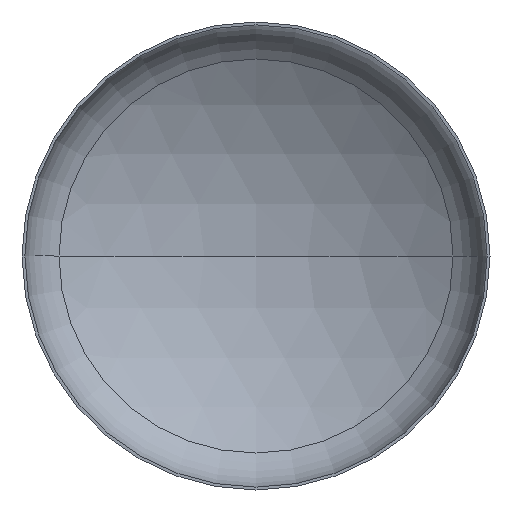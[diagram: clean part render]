
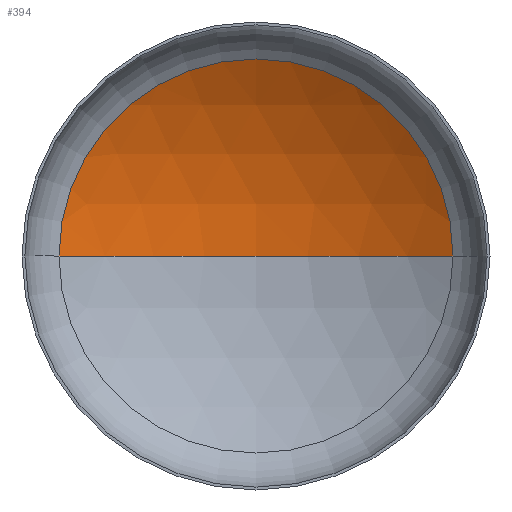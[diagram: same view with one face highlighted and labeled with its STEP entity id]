
A CAD part, front view. The second image highlights one B-rep face of the part: STEP entity #394.
In plain terms, the highlighted spherical face has radius 5200 mm.
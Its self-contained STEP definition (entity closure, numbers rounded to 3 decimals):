
#14 = ORIENTED_EDGE ( 'NONE', *, *, #107, .T. ) ;
#55 = AXIS2_PLACEMENT_3D ( 'NONE', #198, #204, #173 ) ;
#59 = AXIS2_PLACEMENT_3D ( 'NONE', #295, #216, #214 ) ;
#63 = AXIS2_PLACEMENT_3D ( 'NONE', #164, #189, #191 ) ;
#66 = VERTEX_POINT ( 'NONE', #236 ) ;
#71 = EDGE_LOOP ( 'NONE', ( #222, #14, #270 ) ) ;
#74 = VERTEX_POINT ( 'NONE', #239 ) ;
#105 = EDGE_CURVE ( 'NONE', #178, #66, #409, .T. ) ;
#107 = EDGE_CURVE ( 'NONE', #74, #178, #245, .T. ) ;
#112 = EDGE_CURVE ( 'NONE', #74, #66, #299, .T. ) ;
#140 = CARTESIAN_POINT ( 'NONE',  ( 0., -3451.54, 0. ) ) ;
#164 = CARTESIAN_POINT ( 'NONE',  ( 0., 970.367, 0. ) ) ;
#173 = DIRECTION ( 'NONE',  ( 1., 0., 0. ) ) ;
#178 = VERTEX_POINT ( 'NONE', #250 ) ;
#189 = DIRECTION ( 'NONE',  ( 0., -1., 0. ) ) ;
#191 = DIRECTION ( 'NONE',  ( 1., 0., 0. ) ) ;
#198 = CARTESIAN_POINT ( 'NONE',  ( 0., -3451.54, 0. ) ) ;
#204 = DIRECTION ( 'NONE',  ( 0., 0., 1. ) ) ;
#214 = DIRECTION ( 'NONE',  ( -1., 0., 0. ) ) ;
#216 = DIRECTION ( 'NONE',  ( 0., 0., -1. ) ) ;
#222 = ORIENTED_EDGE ( 'NONE', *, *, #112, .F. ) ;
#230 = DIRECTION ( 'NONE',  ( 0., 0., -1. ) ) ;
#236 = CARTESIAN_POINT ( 'NONE',  ( -2736.19, 970.367, 0. ) ) ;
#239 = CARTESIAN_POINT ( 'NONE',  ( 0., 1748.46, 0. ) ) ;
#245 = CIRCLE ( 'NONE', #59, 5200. ) ;
#250 = CARTESIAN_POINT ( 'NONE',  ( 2736.19, 970.367, 0. ) ) ;
#252 = FACE_OUTER_BOUND ( 'NONE', #71, .T. ) ;
#263 = DIRECTION ( 'NONE',  ( -1., 0., 0. ) ) ;
#270 = ORIENTED_EDGE ( 'NONE', *, *, #105, .T. ) ;
#292 = AXIS2_PLACEMENT_3D ( 'NONE', #140, #230, #263 ) ;
#295 = CARTESIAN_POINT ( 'NONE',  ( 0., -3451.54, 0. ) ) ;
#299 = CIRCLE ( 'NONE', #55, 5200. ) ;
#310 = SPHERICAL_SURFACE ( 'NONE', #292, 5200. ) ;
#394 = ADVANCED_FACE ( 'NONE', ( #252 ), #310, .F. ) ;
#409 = CIRCLE ( 'NONE', #63, 2736.19 ) ;
